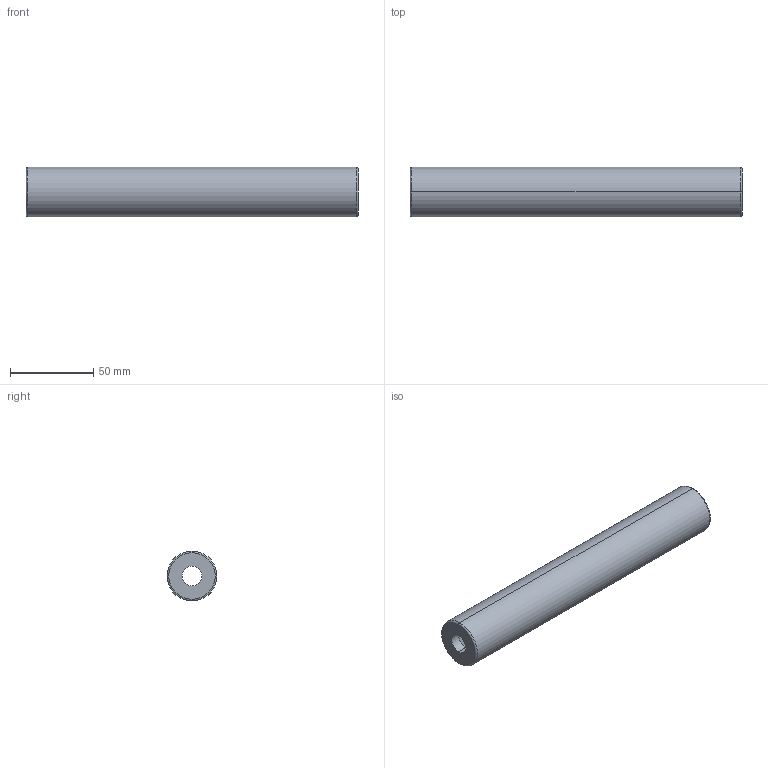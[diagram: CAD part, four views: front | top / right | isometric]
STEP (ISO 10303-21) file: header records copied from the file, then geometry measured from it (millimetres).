
FILE_DESCRIPTION (( 'STEP AP214' ), '1' );
FILE_NAME ('BR20 30x200.STEP', '2020-01-21T11:33:36', ( 'August' ), ( '' ), 'SwSTEP 2.0', 'SolidWorks 2018', '' );
FILE_SCHEMA (( 'AUTOMOTIVE_DESIGN' ));
Length unit declared in the file: millimetre
Products named in the file (1): BR20 30x200
Bounding box: 200 x 30 x 30 mm (x, y, z)
Volume: 39295 mm3; surface area: 35629 mm2
Topology: 1 solids, 1 shells, 14 faces, 28 edges, 16 vertices
Faces by surface type: cylinder 6, torus 4, cone 2, plane 2
Entity records: 406 total; most frequent: DIRECTION 78, CARTESIAN_POINT 59, ORIENTED_EDGE 56, AXIS2_PLACEMENT_3D 35, EDGE_CURVE 28, CIRCLE 20, VERTEX_POINT 16, EDGE_LOOP 16
